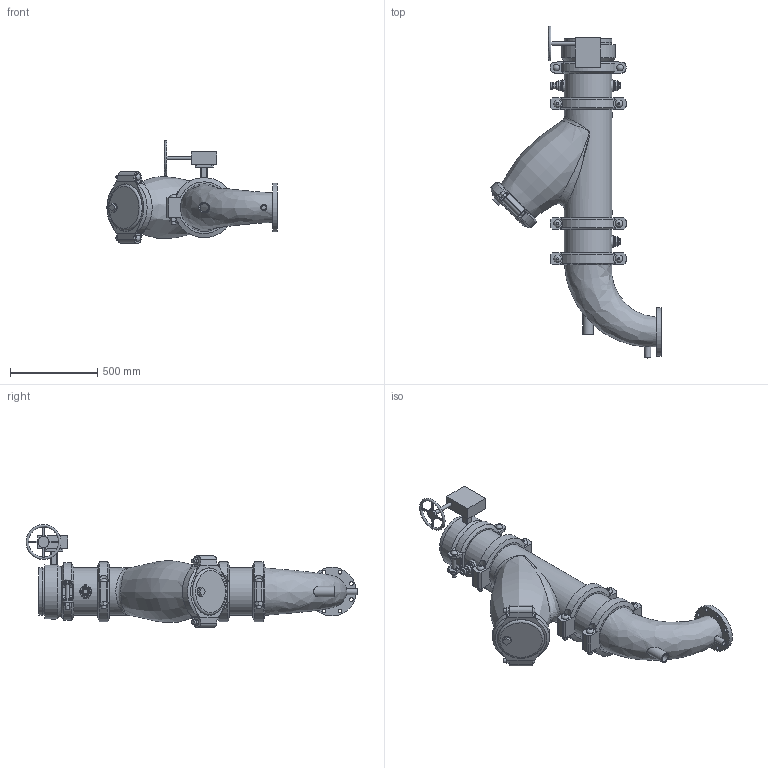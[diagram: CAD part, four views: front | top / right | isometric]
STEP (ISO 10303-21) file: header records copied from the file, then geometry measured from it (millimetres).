
FILE_DESCRIPTION(/* description */ ('VIC SVI PUMP DROP HORZ S/382 (OGSxFLG) (S/924-0.75)','CAx-IF Rec.Pracs.---Representation and Presentation of Product Manufacturing Information (PMI)---4.0---2014-10-13'),/* implementation_level */ '2;1');
FILE_NAME(/* name */ 'C:\Users\Vjadhav\AppData\Roaming\Autodesk\ApplicationPlugins\Victaulic.Temp\A115\Series 382 (OGSxFLG)_924 (0.75)_10.0x06.0 (250x150).stp',/* time_stamp */ '2022-03-17T12:20:41+06:00',/* author */ ('kkamble'),/* organization */ ('Victaulic'),/* preprocessor_version */ 'ST-DEVELOPER v17.2',/* originating_system */ 'Autodesk Inventor 2019',/* authorisation */ '');
FILE_SCHEMA (('AP242_MANAGED_MODEL_BASED_3D_ENGINEERING_MIM_LF { 1 0 10303 442 1 1 4 }'));
Length unit declared in the file: inch
Products named in the file (13): 382_924 (0.75)-10.0x06.0; PIPE-10.0; 107N-10.0; 732-10.0; 732-10.0_1; 07-10.0; 732-10.0_2; 077-10.0; PIPE-10.1; 761-10.0; 924-10.0x0.75; 923-10.0x0.75; R100F-10.0x06.0
Assembly tree (15 placements, depth 3):
  382_924 (0.75)-10.0x06.0
    PIPE-10.0
    107N-10.0
    732-10.0
      732-10.0_1
      07-10.0
      732-10.0_2
    077-10.0  x3
    PIPE-10.1
    761-10.0
    924-10.0x0.75
    923-10.0x0.75  x2
    R100F-10.0x06.0
Bounding box: 977.89 x 1907.33 x 591.16 mm (x, y, z)
Volume: 36246938.4 mm3; surface area: 5744964 mm2
Topology: 14 solids, 23 shells, 743 faces, 1862 edges, 1257 vertices
Faces by surface type: plane 416, cylinder 251, bspline 36, cone 27, torus 9, sphere 4
Full cylindrical faces by diameter (mm): 10.922 x4, 12.7 x1, 20.066 x1, 21.336 x2, 22.225 x8, 22.352 x8, 22.86 x1, 25.4 x12, 26.67 x4, 27.432 x6, 34.29 x1, 37.694 x4, 38.608 x1, 45.974 x6, 48.26 x1, 50.8 x1, 55.626 x3, 60.96 x1, 63.079 x1, 70.104 x1, 76.2 x2, 154.051 x1, 241.3 x1, 254.508 x5, 254.762 x1, 260.35 x2, 264.16 x3, 268.275 x11, 273.05 x26, 279.4 x1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
Entity records: 24304 total; most frequent: CARTESIAN_POINT 9145, DIRECTION 3050, ORIENTED_EDGE 2852, EDGE_CURVE 1426, AXIS2_PLACEMENT_3D 1172, VERTEX_POINT 966, LINE 706, VECTOR 706
